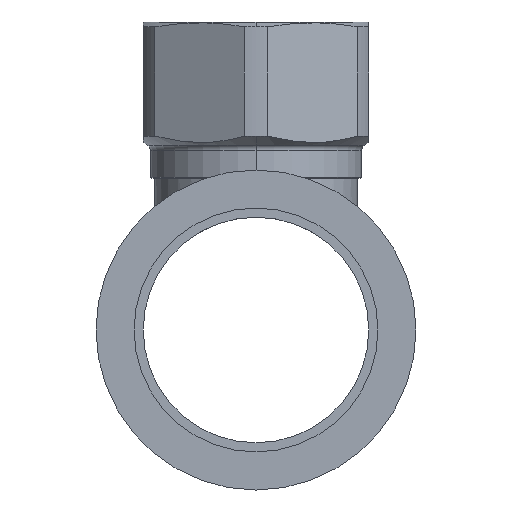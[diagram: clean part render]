
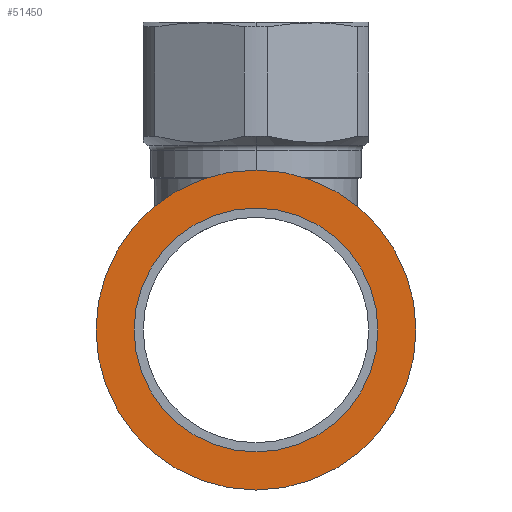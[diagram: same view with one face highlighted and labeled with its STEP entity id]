
A CAD part, left-side view. The second image highlights one B-rep face of the part: STEP entity #51450.
In plain terms, the highlighted planar face has unit normal (-1, 0, 0).
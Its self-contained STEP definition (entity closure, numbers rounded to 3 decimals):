
#50960=CARTESIAN_POINT('',(36.11,61.4,0.));
#50970=VERTEX_POINT('',#50960);
#51060=CARTESIAN_POINT('',(36.11,16.,0.
));
#51070=VERTEX_POINT('',#51060);
#51100=CARTESIAN_POINT('',(36.11,38.7,0.));
#51110=DIRECTION('',(-1.,0.,0.));
#51120=DIRECTION('',(0.,1.,0.));
#51130=AXIS2_PLACEMENT_3D('',#51100,#51110,#51120);
#51140=CIRCLE('',#51130,22.7);
#51150=EDGE_CURVE('',#51070,#50970,#51140,.T.);
#51200=CARTESIAN_POINT('',(36.11,17.7,0.));
#51210=DIRECTION('',(-1.,0.,0.));
#51220=DIRECTION('',(0.,-1.,0.));
#51230=AXIS2_PLACEMENT_3D('',#51200,#51210,#51220);
#51240=PLANE('',#51230);
#51250=CARTESIAN_POINT('',(36.11,38.7,0.));
#51260=DIRECTION('',(-1.,0.,0.));
#51270=DIRECTION('',(0.,1.,0.));
#51280=AXIS2_PLACEMENT_3D('',#51250,#51260,#51270);
#51290=CIRCLE('',#51280,17.3);
#51300=CARTESIAN_POINT('',(36.11,56.,0.));
#51310=VERTEX_POINT('',#51300);
#51320=CARTESIAN_POINT('',(36.11,21.4,0.
));
#51330=VERTEX_POINT('',#51320);
#51340=EDGE_CURVE('',#51310,#51330,#51290,.T.);
#51350=ORIENTED_EDGE('',*,*,#51340,.F.);
#51360=EDGE_CURVE('',#51330,#51310,#51290,.T.);
#51370=ORIENTED_EDGE('',*,*,#51360,.F.);
#51380=EDGE_LOOP('',(#51370,#51350));
#51390=FACE_BOUND('',#51380,.T.);
#51400=EDGE_CURVE('',#50970,#51070,#51140,.T.);
#51410=ORIENTED_EDGE('',*,*,#51400,.T.);
#51420=ORIENTED_EDGE('',*,*,#51150,.T.);
#51430=EDGE_LOOP('',(#51420,#51410));
#51440=FACE_OUTER_BOUND('',#51430,.T.);
#51450=ADVANCED_FACE('',(#51390,#51440),#51240,.T.);
